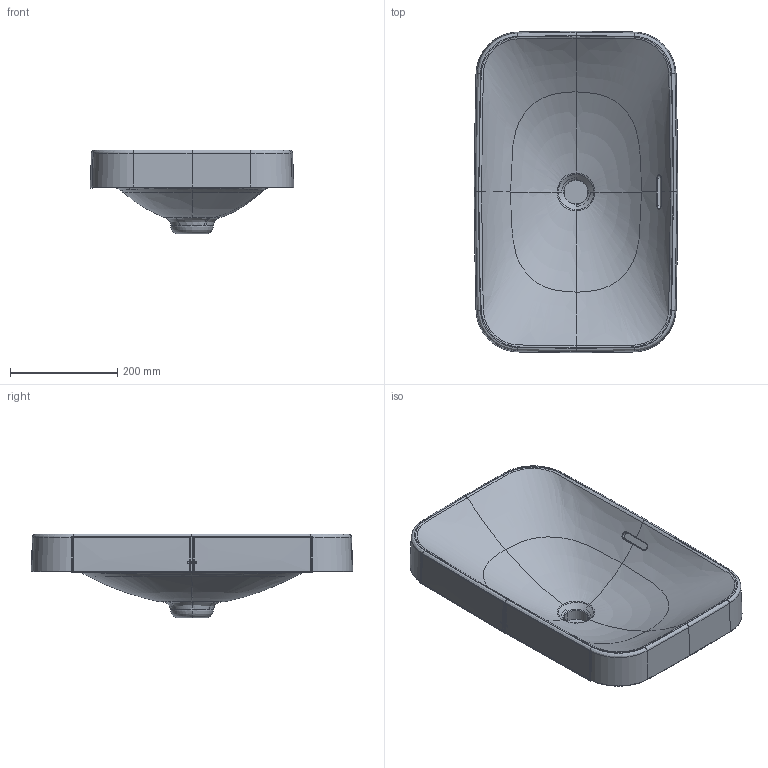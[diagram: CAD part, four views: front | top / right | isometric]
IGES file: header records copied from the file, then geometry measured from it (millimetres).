
Start section:  PTC IGES file: lw5716e.igs
Global section: file name: lw5716e.igs; native system: Creo Parametric by PTC Inc.; preprocessor: 2015290; author: Uporabnik; organization: Unknown; date: 20161125.160545; units: millimetre
Bounding box: 380.01 x 599.93 x 156.4 mm (x, y, z)
Volume: 6684845.9 mm3; surface area: 882911.8 mm2
Topology: 1 solids, 3 shells, 121 faces, 365 edges, 287 vertices
Faces by surface type: bspline 77, extrusion 22, revolution 22
